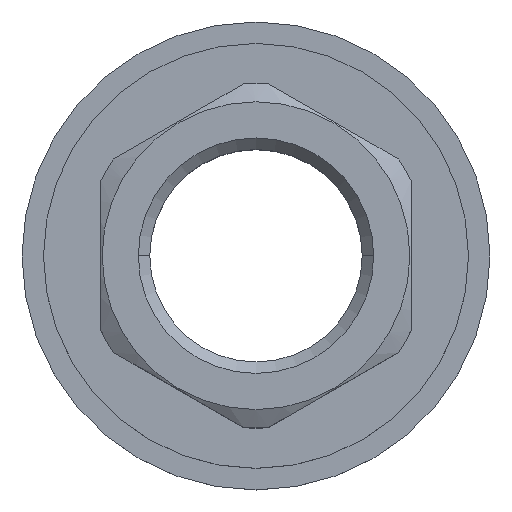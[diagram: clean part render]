
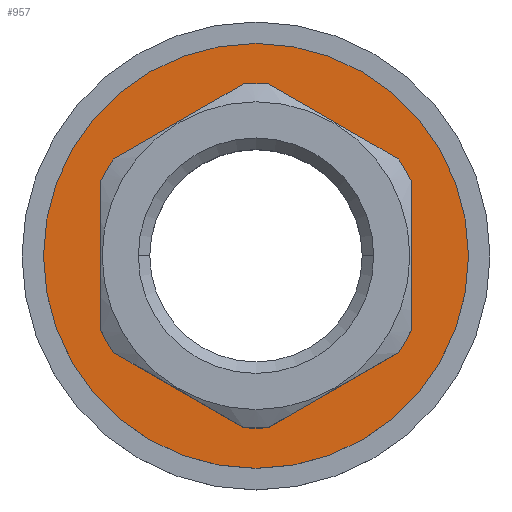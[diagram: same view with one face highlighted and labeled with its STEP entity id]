
A CAD part, top view. The second image highlights one B-rep face of the part: STEP entity #957.
In plain terms, the highlighted planar face has unit normal (0, 0, 1) as drawn and (1, 0, 0) by its records, which use the part's own axes.
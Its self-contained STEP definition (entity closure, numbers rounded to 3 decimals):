
#19 = AXIS2_PLACEMENT_3D ( 'NONE', #364, #1571, #227 ) ;
#50 = ORIENTED_EDGE ( 'NONE', *, *, #1685, .T. ) ;
#60 = EDGE_CURVE ( 'NONE', #648, #1886, #1046, .T. ) ;
#62 = VERTEX_POINT ( 'NONE', #306 ) ;
#85 = PLANE ( 'NONE',  #862 ) ;
#89 = ORIENTED_EDGE ( 'NONE', *, *, #242, .T. ) ;
#127 = ORIENTED_EDGE ( 'NONE', *, *, #60, .F. ) ;
#137 = AXIS2_PLACEMENT_3D ( 'NONE', #1262, #679, #1287 ) ;
#158 = EDGE_CURVE ( 'NONE', #1704, #373, #1339, .T. ) ;
#174 = ORIENTED_EDGE ( 'NONE', *, *, #789, .F. ) ;
#180 = EDGE_LOOP ( 'NONE', ( #959, #282 ) ) ;
#227 = DIRECTION ( 'NONE',  ( 0., 0., 1. ) ) ;
#235 = VERTEX_POINT ( 'NONE', #1618 ) ;
#242 = EDGE_CURVE ( 'NONE', #235, #1886, #1183, .T. ) ;
#264 = CARTESIAN_POINT ( 'NONE',  ( 14.7, 0., 0. ) ) ;
#282 = ORIENTED_EDGE ( 'NONE', *, *, #728, .F. ) ;
#303 = CARTESIAN_POINT ( 'NONE',  ( 14.7, 7.794, -13.5 ) ) ;
#306 = CARTESIAN_POINT ( 'NONE',  ( 14.7, 8.422, 12.412 ) ) ;
#324 = DIRECTION ( 'NONE',  ( -1., 0., 0. ) ) ;
#325 = VERTEX_POINT ( 'NONE', #1045 ) ;
#334 = CARTESIAN_POINT ( 'NONE',  ( 14.7, 14.961, -1.088 ) ) ;
#336 = VERTEX_POINT ( 'NONE', #1669 ) ;
#342 = DIRECTION ( 'NONE',  ( -1., 0., 0. ) ) ;
#364 = CARTESIAN_POINT ( 'NONE',  ( 14.7, 0., 0. ) ) ;
#373 = VERTEX_POINT ( 'NONE', #745 ) ;
#380 = DIRECTION ( 'NONE',  ( 0., 0., 1. ) ) ;
#404 = LINE ( 'NONE', #1613, #1861 ) ;
#447 = AXIS2_PLACEMENT_3D ( 'NONE', #465, #324, #766 ) ;
#457 = ORIENTED_EDGE ( 'NONE', *, *, #1760, .T. ) ;
#460 = DIRECTION ( 'NONE',  ( -1., 0., 0. ) ) ;
#465 = CARTESIAN_POINT ( 'NONE',  ( 14.7, 0., 0. ) ) ;
#467 = ORIENTED_EDGE ( 'NONE', *, *, #1865, .F. ) ;
#516 = VERTEX_POINT ( 'NONE', #813 ) ;
#528 = CARTESIAN_POINT ( 'NONE',  ( 14.7, 14.961, 1.088 ) ) ;
#529 = CARTESIAN_POINT ( 'NONE',  ( 14.7, 18.5, 0. ) ) ;
#547 = CARTESIAN_POINT ( 'NONE',  ( 14.7, 0., 0. ) ) ;
#569 = DIRECTION ( 'NONE',  ( 0., 0., 1. ) ) ;
#595 = CARTESIAN_POINT ( 'NONE',  ( 14.7, 7.794, 13.5 ) ) ;
#616 = DIRECTION ( 'NONE',  ( 0., 0.5, 0.866 ) ) ;
#620 = EDGE_CURVE ( 'NONE', #325, #672, #811, .T. ) ;
#636 = LINE ( 'NONE', #1577, #828 ) ;
#639 = CIRCLE ( 'NONE', #1739, 18.5 ) ;
#648 = VERTEX_POINT ( 'NONE', #932 ) ;
#659 = ORIENTED_EDGE ( 'NONE', *, *, #1480, .F. ) ;
#672 = VERTEX_POINT ( 'NONE', #1511 ) ;
#679 = DIRECTION ( 'NONE',  ( -1., 0., 0. ) ) ;
#716 = DIRECTION ( 'NONE',  ( 0., -0.5, -0.866 ) ) ;
#728 = EDGE_CURVE ( 'NONE', #373, #1704, #639, .T. ) ;
#737 = AXIS2_PLACEMENT_3D ( 'NONE', #1549, #342, #1259 ) ;
#745 = CARTESIAN_POINT ( 'NONE',  ( 14.7, 0., -18.5 ) ) ;
#765 = DIRECTION ( 'NONE',  ( 0., -1., 0. ) ) ;
#766 = DIRECTION ( 'NONE',  ( 0., 0., 1. ) ) ;
#789 = EDGE_CURVE ( 'NONE', #1000, #1610, #1660, .T. ) ;
#811 = CIRCLE ( 'NONE', #1714, 15. ) ;
#813 = CARTESIAN_POINT ( 'NONE',  ( 14.7, 6.538, -13.5 ) ) ;
#828 = VECTOR ( 'NONE', #1288, 1000. ) ;
#846 = CARTESIAN_POINT ( 'NONE',  ( 14.7, -7.794, -13.5 ) ) ;
#862 = AXIS2_PLACEMENT_3D ( 'NONE', #529, #1136, #380 ) ;
#873 = DIRECTION ( 'NONE',  ( -1., 0., 0. ) ) ;
#923 = EDGE_CURVE ( 'NONE', #325, #336, #636, .T. ) ;
#927 = EDGE_CURVE ( 'NONE', #1000, #516, #1461, .T. ) ;
#929 = ORIENTED_EDGE ( 'NONE', *, *, #1070, .F. ) ;
#932 = CARTESIAN_POINT ( 'NONE',  ( 14.7, 6.538, 13.5 ) ) ;
#934 = VECTOR ( 'NONE', #1095, 1000. ) ;
#957 = ADVANCED_FACE ( 'NONE', ( #1444, #1435 ), #85, .F. ) ;
#959 = ORIENTED_EDGE ( 'NONE', *, *, #158, .F. ) ;
#1000 = VERTEX_POINT ( 'NONE', #1326 ) ;
#1020 = VERTEX_POINT ( 'NONE', #1486 ) ;
#1035 = CARTESIAN_POINT ( 'NONE',  ( 14.7, 0., 0. ) ) ;
#1045 = CARTESIAN_POINT ( 'NONE',  ( 14.7, -14.961, -1.088 ) ) ;
#1046 = LINE ( 'NONE', #595, #1838 ) ;
#1070 = EDGE_CURVE ( 'NONE', #1258, #62, #1655, .T. ) ;
#1084 = VECTOR ( 'NONE', #1606, 1000. ) ;
#1089 = CIRCLE ( 'NONE', #137, 15. ) ;
#1095 = DIRECTION ( 'NONE',  ( 0., -0.5, 0.866 ) ) ;
#1136 = DIRECTION ( 'NONE',  ( -1., 0., 0. ) ) ;
#1138 = EDGE_LOOP ( 'NONE', ( #1779, #467, #89, #127, #50, #929, #457, #174, #1699, #659, #1925, #1587 ) ) ;
#1183 = CIRCLE ( 'NONE', #1900, 15. ) ;
#1185 = DIRECTION ( 'NONE',  ( 0., 0., 1. ) ) ;
#1243 = CARTESIAN_POINT ( 'NONE',  ( 14.7, 15.588, 0. ) ) ;
#1253 = EDGE_CURVE ( 'NONE', #1020, #336, #1089, .T. ) ;
#1258 = VERTEX_POINT ( 'NONE', #528 ) ;
#1259 = DIRECTION ( 'NONE',  ( 0., 0., 1. ) ) ;
#1262 = CARTESIAN_POINT ( 'NONE',  ( 14.7, 0., 0. ) ) ;
#1273 = CIRCLE ( 'NONE', #737, 15. ) ;
#1287 = DIRECTION ( 'NONE',  ( 0., 0., 1. ) ) ;
#1288 = DIRECTION ( 'NONE',  ( 0., 0.5, -0.866 ) ) ;
#1326 = CARTESIAN_POINT ( 'NONE',  ( 14.7, 8.422, -12.412 ) ) ;
#1339 = CIRCLE ( 'NONE', #1501, 18.5 ) ;
#1400 = VECTOR ( 'NONE', #616, 1000. ) ;
#1435 = FACE_OUTER_BOUND ( 'NONE', #180, .T. ) ;
#1444 = FACE_BOUND ( 'NONE', #1138, .T. ) ;
#1459 = CIRCLE ( 'NONE', #447, 15. ) ;
#1460 = DIRECTION ( 'NONE',  ( -1., 0., 0. ) ) ;
#1461 = CIRCLE ( 'NONE', #19, 15. ) ;
#1480 = EDGE_CURVE ( 'NONE', #1020, #516, #1596, .T. ) ;
#1486 = CARTESIAN_POINT ( 'NONE',  ( 14.7, -6.538, -13.5 ) ) ;
#1501 = AXIS2_PLACEMENT_3D ( 'NONE', #1035, #1460, #1761 ) ;
#1511 = CARTESIAN_POINT ( 'NONE',  ( 14.7, -14.961, 1.088 ) ) ;
#1549 = CARTESIAN_POINT ( 'NONE',  ( 14.7, 0., 0. ) ) ;
#1571 = DIRECTION ( 'NONE',  ( -1., 0., 0. ) ) ;
#1577 = CARTESIAN_POINT ( 'NONE',  ( 14.7, -15.588, 0. ) ) ;
#1587 = ORIENTED_EDGE ( 'NONE', *, *, #923, .F. ) ;
#1596 = LINE ( 'NONE', #846, #1084 ) ;
#1606 = DIRECTION ( 'NONE',  ( 0., 1., 0. ) ) ;
#1610 = VERTEX_POINT ( 'NONE', #334 ) ;
#1613 = CARTESIAN_POINT ( 'NONE',  ( 14.7, -7.794, 13.5 ) ) ;
#1618 = CARTESIAN_POINT ( 'NONE',  ( 14.7, -8.422, 12.412 ) ) ;
#1637 = CARTESIAN_POINT ( 'NONE',  ( 14.7, 0., 0. ) ) ;
#1655 = LINE ( 'NONE', #1243, #934 ) ;
#1660 = LINE ( 'NONE', #303, #1400 ) ;
#1669 = CARTESIAN_POINT ( 'NONE',  ( 14.7, -8.422, -12.412 ) ) ;
#1672 = CARTESIAN_POINT ( 'NONE',  ( 14.7, 0., 18.5 ) ) ;
#1685 = EDGE_CURVE ( 'NONE', #648, #62, #1459, .T. ) ;
#1699 = ORIENTED_EDGE ( 'NONE', *, *, #927, .T. ) ;
#1704 = VERTEX_POINT ( 'NONE', #1672 ) ;
#1714 = AXIS2_PLACEMENT_3D ( 'NONE', #547, #1752, #1727 ) ;
#1727 = DIRECTION ( 'NONE',  ( 0., 0., 1. ) ) ;
#1739 = AXIS2_PLACEMENT_3D ( 'NONE', #1637, #460, #1185 ) ;
#1752 = DIRECTION ( 'NONE',  ( -1., 0., 0. ) ) ;
#1760 = EDGE_CURVE ( 'NONE', #1258, #1610, #1273, .T. ) ;
#1761 = DIRECTION ( 'NONE',  ( 0., 0., 1. ) ) ;
#1779 = ORIENTED_EDGE ( 'NONE', *, *, #620, .T. ) ;
#1821 = CARTESIAN_POINT ( 'NONE',  ( 14.7, -6.538, 13.5 ) ) ;
#1838 = VECTOR ( 'NONE', #765, 1000. ) ;
#1861 = VECTOR ( 'NONE', #716, 1000. ) ;
#1865 = EDGE_CURVE ( 'NONE', #235, #672, #404, .T. ) ;
#1886 = VERTEX_POINT ( 'NONE', #1821 ) ;
#1900 = AXIS2_PLACEMENT_3D ( 'NONE', #264, #873, #569 ) ;
#1925 = ORIENTED_EDGE ( 'NONE', *, *, #1253, .T. ) ;
